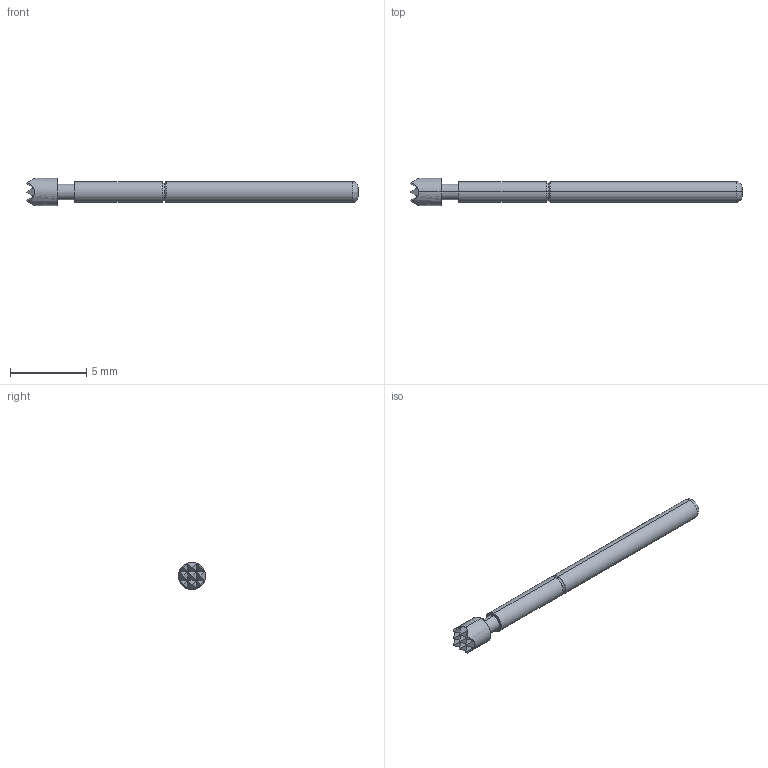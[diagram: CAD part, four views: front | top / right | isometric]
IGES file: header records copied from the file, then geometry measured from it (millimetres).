
Start section: SolidWorks IGES file using analytic representation for surfaces
Global section: file name: O:\PYLON\IGES FILES\P3158\P3158G-1W1S REC'D.IGS; native system: SolidWorks 2015; preprocessor: SolidWorks 2015; author: kgolden; date: 171020.072659; units: inch
Bounding box: 21.74 x 1.78 x 1.78 mm (x, y, z)
Surface area: 106.1 mm2 (no closed solid volume)
Topology: 0 solids, 0 shells, 47 faces, 302 edges, 302 vertices
Faces by surface type: bspline 37, revolution 10
